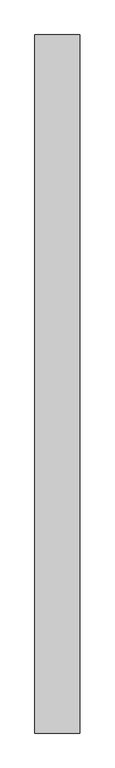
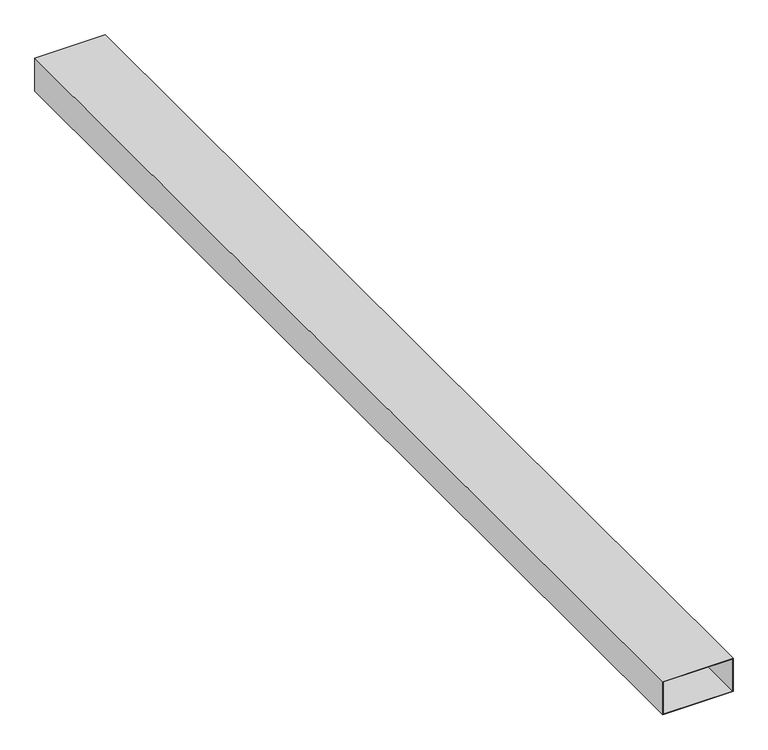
"""IFC4 building model written with IfcOpenShell, lengths in millimetres: furniture geometry, Ducto Metalico para Instalaciones : Ducto Metalico 10cm profundidad."""

import ifcopenshell
import ifcopenshell.guid

model = None  # the IFC model being written
_history = None  # IfcOwnerHistory: only IFC2X3 demands one
_inside = {}  # id of a spatial element -> (the spatial element, [elements in it])
_under = {}  # id of a project, library or spatial element -> (it, [spatial elements below it])
_declared = {}  # id of a project -> (the project, [libraries it declares])
_typed = {}  # id of a type object -> (the type object, [elements of that type])
_made_of = {}  # id of a material, layer set ... -> (it, [elements and type objects made of it])


def new_model(schema):
    """Start an empty IFC model of exactly this schema.

    Asked for "IFC4X3", IfcOpenShell would pick the latest addendum, in which some entities
    have other attributes; the version numbers below select the first issue.
    IFC2X3 requires an IfcOwnerHistory on every rooted entity: one is made here for all.
    """
    global model, _history
    if schema == "IFC4X3":
        model = ifcopenshell.file(schema_version=(4, 3, 0, 0))
    else:
        model = ifcopenshell.file(schema=schema)
    _inside.clear()
    _under.clear()
    _declared.clear()
    _typed.clear()
    _made_of.clear()
    _history = None
    if model.schema == "IFC2X3":
        org = make("IfcOrganization", Name="unknown")
        user = make(
            "IfcPersonAndOrganization",
            ThePerson=make("IfcPerson", FamilyName="unknown"),
            TheOrganization=org,
        )
        app = make(
            "IfcApplication",
            ApplicationDeveloper=org,
            Version="unknown",
            ApplicationFullName="unknown",
            ApplicationIdentifier="unknown",
        )
        _history = make(
            "IfcOwnerHistory",
            OwningUser=user,
            OwningApplication=app,
            ChangeAction="ADDED",
            CreationDate=0,
        )
    return model


def make(cls, **values):
    """One entity of the class cls with the attributes given. An attribute that is None is left unset."""
    return model.create_entity(
        cls, **{name: value for name, value in values.items() if value is not None}
    )


def rooted(cls, **values):
    """An entity with a GlobalId (a new one), such as an element, a storey or a relation."""
    return make(cls, GlobalId=ifcopenshell.guid.new(), OwnerHistory=_history, **values)


def si_unit(unit_type, name, prefix=None):
    """IfcSIUnit, for example si_unit("LENGTHUNIT", "METRE", prefix="MILLI")."""
    return make("IfcSIUnit", UnitType=unit_type, Prefix=prefix, Name=name)


def assignment(units):
    """IfcUnitAssignment: the units of a project."""
    return None if units is None else make("IfcUnitAssignment", Units=units)


def point(xyz):
    """IfcCartesianPoint."""
    return None if xyz is None else make("IfcCartesianPoint", Coordinates=xyz)


def direction(xyz):
    """IfcDirection."""
    return None if xyz is None else make("IfcDirection", DirectionRatios=xyz)


def frame(location, z_axis=None, x_axis=None):
    """IfcAxis2Placement3D, a coordinate frame: its origin and axes. An axis left out is left unset."""
    return make(
        "IfcAxis2Placement3D",
        Location=point(location),
        Axis=direction(z_axis),
        RefDirection=direction(x_axis),
    )


def origin():
    """The frame at (0, 0, 0) with its axes left unset."""
    return frame((0.0, 0.0, 0.0))


def place(relative_to, where):
    """IfcLocalPlacement: puts the frame where relative to a parent placement (None: the world)."""
    return make(
        "IfcLocalPlacement", PlacementRelTo=relative_to, RelativePlacement=where
    )


def context(
    kind, dimensions, precision=None, world=None, true_north=None, identifier=None
):
    """IfcGeometricRepresentationContext, for example the 3D "Model" context."""
    return make(
        "IfcGeometricRepresentationContext",
        ContextIdentifier=identifier,
        ContextType=kind,
        CoordinateSpaceDimension=dimensions,
        Precision=precision,
        WorldCoordinateSystem=world,
        TrueNorth=true_north,
    )


def project(units=None, contexts=None):
    """IfcProject with its units and contexts."""
    return rooted(
        "IfcProject",
        Name="project",
        RepresentationContexts=contexts,
        UnitsInContext=assignment(units),
    )


def spatial(cls, under=None, at=None, **own):
    """A site, building, storey or space (cls), placed at a placement, below another one or the project."""
    s = rooted(cls, ObjectPlacement=at, **own)
    if under is not None:
        _under.setdefault(under.id(), (under, []))[1].append(s)
    return s


def polyline(points):
    """IfcPolyline through the points."""
    return make("IfcPolyline", Points=[point(p) for p in points])


def outline(outer, holes=None, kind="AREA"):
    """IfcArbitraryClosedProfileDef: a profile drawn as a closed curve; with holes, ...WithVoids."""
    if holes is None:
        return make("IfcArbitraryClosedProfileDef", ProfileType=kind, OuterCurve=outer)
    return make(
        "IfcArbitraryProfileDefWithVoids",
        ProfileType=kind,
        OuterCurve=outer,
        InnerCurves=holes,
    )


def extrude(swept, where, along, depth):
    """IfcExtrudedAreaSolid: the profile swept, set in the frame where, extruded along a direction by depth."""
    return make(
        "IfcExtrudedAreaSolid",
        SweptArea=swept,
        Position=where,
        ExtrudedDirection=direction(along),
        Depth=depth,
    )


def shape(context_of_items, identifier, shape_type, items):
    """IfcShapeRepresentation: the items that make up one representation, for example the "Body"."""
    return make(
        "IfcShapeRepresentation",
        ContextOfItems=context_of_items,
        RepresentationIdentifier=identifier,
        RepresentationType=shape_type,
        Items=items,
    )


def source(mapping_origin, context_of_items, identifier, shape_type, items):
    """IfcRepresentationMap: a shape defined once, which mapped items show again and again."""
    return make(
        "IfcRepresentationMap",
        MappingOrigin=mapping_origin,
        MappedRepresentation=shape(context_of_items, identifier, shape_type, items),
    )


def transform(
    local_origin,
    x_axis=None,
    y_axis=None,
    z_axis=None,
    scale=None,
    scale2=None,
    scale3=None,
    uniform=True,
):
    """IfcCartesianTransformationOperator3D, or its non-uniform kind. x_axis, y_axis, z_axis: its Axis1, 2, 3."""
    if uniform:
        return make(
            "IfcCartesianTransformationOperator3D",
            Axis1=direction(x_axis),
            Axis2=direction(y_axis),
            LocalOrigin=point(local_origin),
            Scale=scale,
            Axis3=direction(z_axis),
        )
    return make(
        "IfcCartesianTransformationOperator3DnonUniform",
        Axis1=direction(x_axis),
        Axis2=direction(y_axis),
        LocalOrigin=point(local_origin),
        Scale=scale,
        Axis3=direction(z_axis),
        Scale2=scale2,
        Scale3=scale3,
    )


def mapped(mapping_source, mapping_target):
    """IfcMappedItem: shows the shape of a source again, moved by a transform."""
    return make(
        "IfcMappedItem", MappingSource=mapping_source, MappingTarget=mapping_target
    )


def made_of(thing, what):
    """Note that an element or type object is made of a material, layer set ...; save() writes the relation."""
    if what is not None:
        _made_of.setdefault(what.id(), (what, []))[1].append(thing)
    return thing


def element(
    cls,
    number,
    at=None,
    inside=None,
    cuts=None,
    type_object=None,
    material=None,
    context=None,
    identifier="Body",
    shape_type=None,
    held_by="IfcProductDefinitionShape",
    body=None,
    shapes=None,
    **own,
):
    """One element of the class cls, such as IfcWall. Its Tag is "e" and its number.

    at: its placement. inside: the storey or other place that contains it. cuts: it is an
    opening in that element (IfcRelVoidsElement). A single representation is given by context,
    identifier, shape_type and body (its items); several are given by shapes. held_by: the class
    of the entity that holds the representations. save() writes the other relations.
    """
    e = rooted(cls, Tag="e%d" % number, ObjectPlacement=at, **own)
    if body is not None:
        shapes = [shape(context, identifier, shape_type, body)]
    if shapes is not None:
        e.Representation = make(held_by, Representations=shapes)
    if inside is not None:
        _inside.setdefault(inside.id(), (inside, []))[1].append(e)
    if cuts is not None:
        rooted(
            "IfcRelVoidsElement", RelatingBuildingElement=cuts, RelatedOpeningElement=e
        )
    if type_object is not None:
        _typed.setdefault(type_object.id(), (type_object, []))[1].append(e)
    return made_of(e, material)


def aggregate(whole, parts):
    """IfcRelAggregates: a whole, such as a stair, and the parts it consists of."""
    return rooted("IfcRelAggregates", RelatingObject=whole, RelatedObjects=parts)


def save(model, path):
    """Write the relations noted so far, then the file.

    IfcRelAggregates (storeys below a building ...), IfcRelContainedInSpatialStructure (elements
    in a storey), IfcRelDefinesByType, IfcRelAssociatesMaterial and IfcRelDeclares: one each for
    every whole, place, type object, material and project.
    """
    for whole, parts in _under.values():
        aggregate(whole, parts)
    for where, things in _inside.values():
        rooted(
            "IfcRelContainedInSpatialStructure",
            RelatedElements=things,
            RelatingStructure=where,
        )
    for kind, things in _typed.values():
        rooted("IfcRelDefinesByType", RelatedObjects=things, RelatingType=kind)
    for what, things in _made_of.values():
        rooted("IfcRelAssociatesMaterial", RelatedObjects=things, RelatingMaterial=what)
    for by, libraries in _declared.values():
        rooted("IfcRelDeclares", RelatingContext=by, RelatedDefinitions=libraries)
    model.write(path)


def furniture_6d9eaf94(model_context):
    return source(origin(), model_context, "Body", "SweptSolid", [
        extrude(outline(polyline([(100.0, -100.0), (0.0, -100.0), (0.0, 100.0), (100.0, 100.0), (100.0, -100.0)]), holes=[polyline([(98.0, 98.0), (2.0, 98.0), (2.0, -98.0), (98.0, -98.0), (98.0, 98.0)])]), frame((0.0, 0.0, 0.0), z_axis=(0.0, 1.0, 0.0), x_axis=(0.0, 0.0, 1.0)), (0.0, 0.0, 1.0), 3100.0),
    ])


if __name__ == "__main__":
    model = new_model("IFC4")
    model_context = context("Model", 3, world=origin())
    ifc_project = project(units=[si_unit("LENGTHUNIT", "METRE", prefix="MILLI")], contexts=[model_context])
    site = spatial("IfcSite", under=ifc_project)
    building = spatial("IfcBuilding", under=site)
    placement = place(None, origin())
    furniture_shape = furniture_6d9eaf94(model_context)
    element("IfcFurniture", 1, ObjectType="Ducto Metalico para Instalaciones : Ducto Metalico 10cm profundidad", at=placement, inside=building, context=model_context, shape_type="MappedRepresentation", body=[
        mapped(furniture_shape, transform((0.0, 0.0, 0.0), x_axis=(1.0, 0.0, 0.0), y_axis=(0.0, 1.0, 0.0), z_axis=(0.0, 0.0, 1.0))),
    ])
    save(model, "model.ifc")
